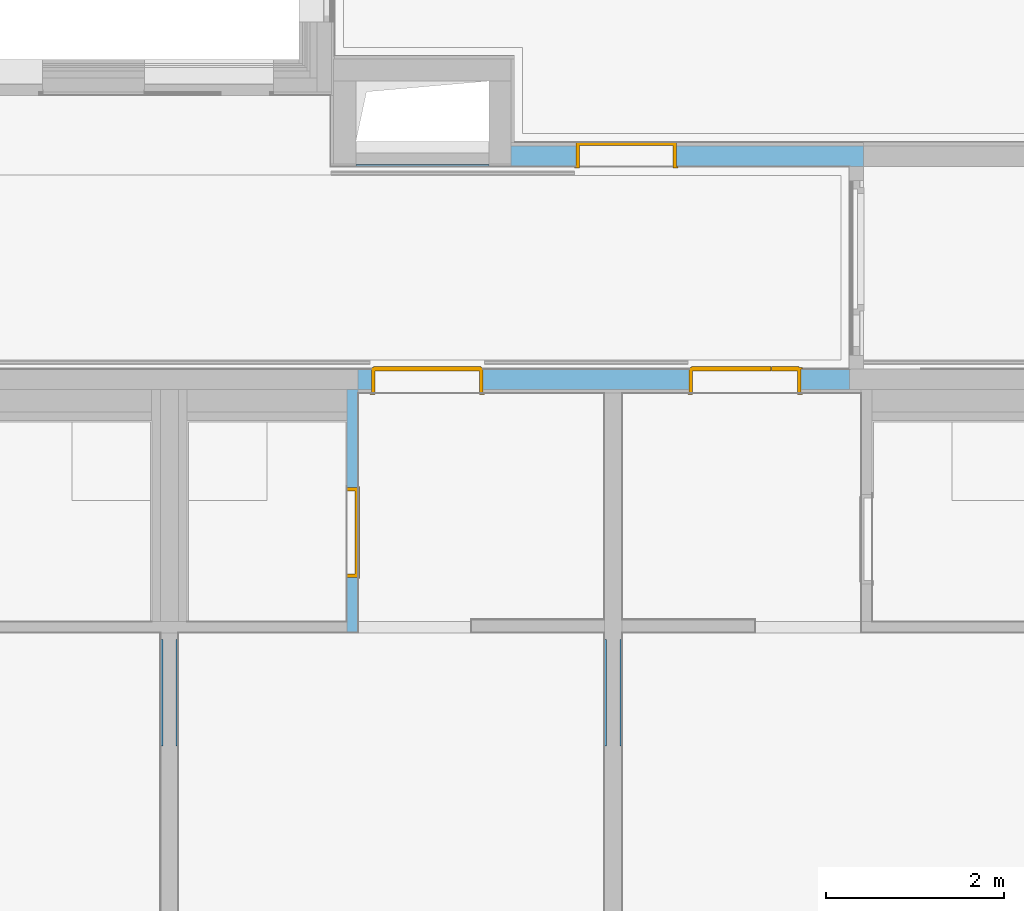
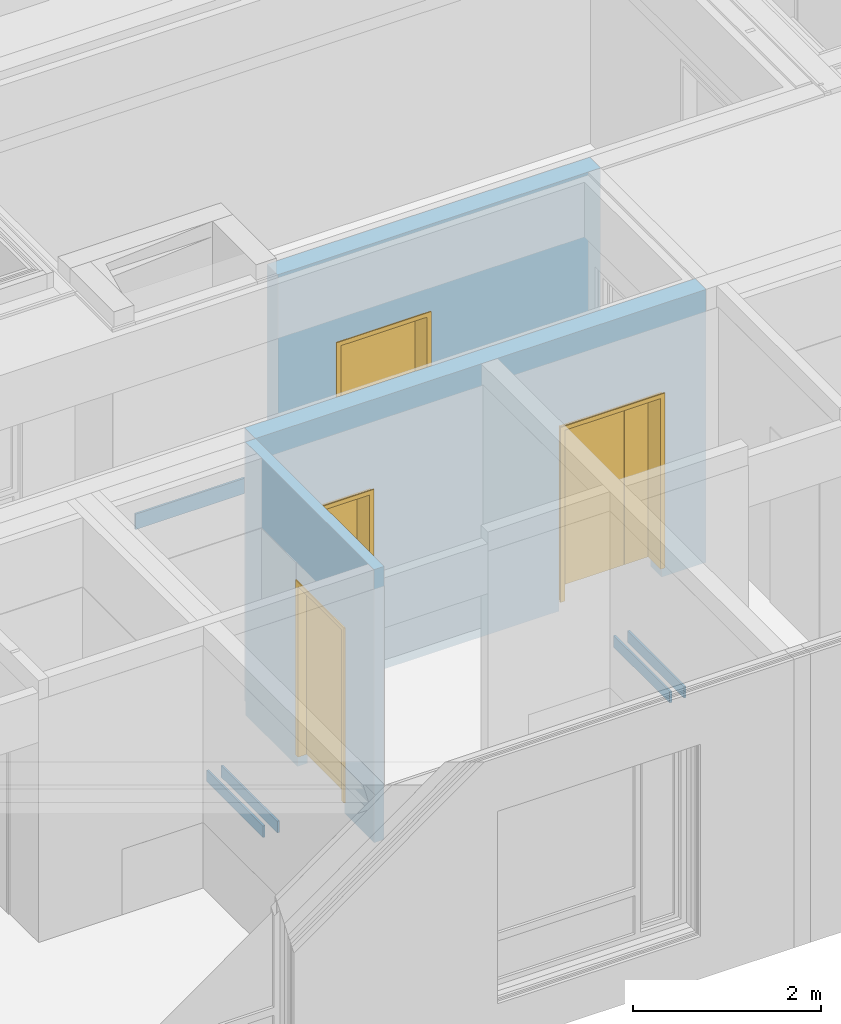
# One storey, part 66 of 222: 5 walls, 4 doors, 4 openings, plus 3 elements that do not belong to this part.
"""IFC4 building model written with IfcOpenShell, lengths in metres."""

from ifc_helpers import new_model, entity, si_unit, converted_unit, derived_unit, frame, frame_2d, origin, origin_with_axes, place, context, subcontext, project, spatial, polyline, rectangle, outline, extrude, faceted_brep, source, transform, mapped, material, type_object, element, fill, save


model = new_model("IFC4")

# Units and contexts
model_context = context("Model", 3, precision=1e-05, world=origin())
body_context = subcontext(model_context, "Body", "Model", "MODEL_VIEW")
ifc_project = project(units=[si_unit("LENGTHUNIT", "METRE"), si_unit("AREAUNIT", "SQUARE_METRE"), si_unit("VOLUMEUNIT", "CUBIC_METRE"), si_unit("MASSUNIT", "GRAM", prefix="KILO"), converted_unit("PLANEANGLEUNIT", "DEGREE", entity("IfcPlaneAngleMeasure", 0.0174532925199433), si_unit("PLANEANGLEUNIT", "RADIAN"), dimensions=[0, 0, 0, 0, 0, 0, 0]), derived_unit("THERMALTRANSMITTANCEUNIT", [(si_unit("POWERUNIT", "WATT"), 1), (si_unit("THERMODYNAMICTEMPERATUREUNIT", "KELVIN"), -1), (si_unit("LENGTHUNIT", "METRE"), -2)]), derived_unit("VOLUMETRICFLOWRATEUNIT", [(si_unit("LENGTHUNIT", "METRE"), 3), (converted_unit("TIMEUNIT", "hour", entity("IfcTimeMeasure", 3600.0), si_unit("TIMEUNIT", "SECOND"), dimensions=[0, 0, 1, 0, 0, 0, 0]), -1), (si_unit("LENGTHUNIT", "METRE"), -1)])], contexts=[model_context])

# Site, building, storey
site_placement = place(None, origin())
site = spatial("IfcSite", under=ifc_project, at=site_placement, Name="Psychiatrie Neubau Wunstorf", CompositionType="ELEMENT")
building_placement = place(site_placement, origin())
building = spatial("IfcBuilding", under=site, at=building_placement, Name="Neubau H2 Stationsgebäude", CompositionType="ELEMENT")
storey_placement = place(building_placement, frame((0.0, 0.0, 3.6)))
storey = spatial("IfcBuildingStorey", under=building, at=storey_placement, Name="H2 Ebene +1", CompositionType="ELEMENT", Elevation=3.6)

# Wall, opening, door
ifc_material_1 = material(Name="WI-LB")
wall_1_placement = place(storey_placement, frame((27.0, 4.09874963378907, 0.0), z_axis=(0.0, 0.0, 1.0), x_axis=(0.0, -1.0, 0.0)))
wall_1 = element("IfcWall", 1, at=wall_1_placement, inside=storey, material=ifc_material_1, context=body_context, shape_type="SweptSolid", body=[
    extrude(rectangle(XDim=2.73999999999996, YDim=0.125, at=frame_2d((1.36999999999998, 0.0625), x_axis=(1.0, 0.0))), origin_with_axes(), (0.0, 0.0, 1.0), 3.55),
])
opening_1_placement = place(wall_1_placement, frame((1.10499999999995, 0.0, 0.0), z_axis=(0.0, 1.0, 0.0), x_axis=(0.0, 0.0, 1.0)))
opening_1 = element("IfcOpeningElement", 2, at=opening_1_placement, cuts=wall_1, Name="Türöffnung", ObjectType="Opening", context=body_context, shape_type="SweptSolid", body=[
    extrude(outline(polyline([(2.41, 1.01), (2.41, 0.0), (0.0, 0.0), (0.0, 1.01), (2.41, 1.01)])), origin_with_axes(), (0.0, 0.0, 1.0), 0.125),
])
ifc_material_2 = material(Name="TI-1F-UZ-D-N")
door_type_1 = type_object("IfcDoorType", Name="SMT", OperationType="SINGLE_SWING_RIGHT", ParameterTakesPrecedence=False, PredefinedType="DOOR")
shared_shape_1 = source(origin_with_axes(), body_context, "Body", "Brep", [
    faceted_brep([(1.05, 0.0124999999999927, 0.0), (1.05, 0.112499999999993, 0.0), (1.01, 0.112499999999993, 0.0), (1.01, 0.0124999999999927, 0.0), (1.05, 0.112499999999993, 3.55), (1.05, 0.0124999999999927, 3.55), (1.01, 0.0124999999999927, 3.55), (1.01, 0.112499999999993, 3.55)], [[[0, 1, 2, 3]], [[4, 5, 6, 7]], [[1, 0, 5, 4]], [[2, 1, 4, 7]], [[3, 2, 7, 6]], [[0, 3, 6, 5]]], orient=[[False], [False], [False], [False], [False], [False]]),
    faceted_brep([(0.0, 0.0124999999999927, 0.0), (0.0, 0.112499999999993, 0.0), (-0.0399999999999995, 0.112499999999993, 0.0), (-0.0399999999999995, 0.0124999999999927, 0.0), (0.0, 0.112499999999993, 3.55), (0.0, 0.0124999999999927, 3.55), (-0.0399999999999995, 0.0124999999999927, 3.55), (-0.0399999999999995, 0.112499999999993, 3.55)], [[[0, 1, 2, 3]], [[4, 5, 6, 7]], [[1, 0, 5, 4]], [[2, 1, 4, 7]], [[3, 2, 7, 6]], [[0, 3, 6, 5]]], orient=[[False], [False], [False], [False], [False], [False]]),
    faceted_brep([(1.01, 0.0124999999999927, 2.41), (1.01, 0.112499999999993, 2.41), (0.0, 0.112499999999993, 2.41), (0.0, 0.0124999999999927, 2.41), (1.01, 0.112499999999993, 2.45), (1.01, 0.0124999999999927, 2.45), (0.0, 0.0124999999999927, 2.45), (0.0, 0.112499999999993, 2.45)], [[[0, 1, 2, 3]], [[4, 5, 6, 7]], [[1, 0, 5, 4]], [[2, 1, 4, 7]], [[3, 2, 7, 6]], [[0, 3, 6, 5]]], orient=[[False], [False], [False], [False], [False], [False]]),
])
shared_shape_2 = source(origin_with_axes(), body_context, "Body", "Brep", [
    faceted_brep([(0.0, -0.0150000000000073, 2.41), (0.0400000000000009, -0.0150000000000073, 2.41), (0.0400000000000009, -0.0150000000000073, 0.15), (0.0, -0.0150000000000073, 0.15), (0.0, 0.139999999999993, 0.15), (0.0400000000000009, 0.139999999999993, 0.15), (0.0400000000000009, 0.139999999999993, 2.41), (0.0, 0.139999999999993, 2.41)], [[[0, 1, 2, 3]], [[4, 5, 6, 7]], [[3, 4, 7, 0]], [[2, 5, 4, 3]], [[1, 6, 5, 2]], [[0, 7, 6, 1]]], orient=[[False], [False], [False], [False], [False], [False]]),
    faceted_brep([(0.0, -0.0150000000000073, 2.425), (0.0, -0.0150000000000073, 0.15), (-0.0149999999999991, -0.0150000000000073, 0.15), (-0.0149999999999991, -0.0150000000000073, 2.425), (0.0, 0.0, 0.15), (0.0, 0.0, 2.425), (-0.0149999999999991, 0.0, 2.425), (-0.0149999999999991, 0.0, 0.15)], [[[0, 1, 2, 3]], [[4, 5, 6, 7]], [[1, 0, 5, 4]], [[2, 1, 4, 7]], [[3, 2, 7, 6]], [[0, 3, 6, 5]]], orient=[[False], [False], [False], [False], [False], [False]]),
    faceted_brep([(0.0, 0.124999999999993, 2.425), (0.0, 0.124999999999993, 0.15), (-0.0149999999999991, 0.124999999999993, 0.15), (-0.0149999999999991, 0.124999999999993, 2.425), (0.0, 0.139999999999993, 0.15), (0.0, 0.139999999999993, 2.425), (-0.0149999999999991, 0.139999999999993, 2.425), (-0.0149999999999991, 0.139999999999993, 0.15)], [[[0, 1, 2, 3]], [[4, 5, 6, 7]], [[1, 0, 5, 4]], [[2, 1, 4, 7]], [[3, 2, 7, 6]], [[0, 3, 6, 5]]], orient=[[False], [False], [False], [False], [False], [False]]),
    faceted_brep([(0.970000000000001, -0.0150000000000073, 2.41), (1.01, -0.0150000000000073, 2.41), (1.01, -0.0150000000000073, 0.15), (0.970000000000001, -0.0150000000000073, 0.15), (0.970000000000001, 0.139999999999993, 0.15), (1.01, 0.139999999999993, 0.15), (1.01, 0.139999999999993, 2.41), (0.970000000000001, 0.139999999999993, 2.41)], [[[0, 1, 2, 3]], [[4, 5, 6, 7]], [[3, 4, 7, 0]], [[2, 5, 4, 3]], [[1, 6, 5, 2]], [[0, 7, 6, 1]]], orient=[[False], [False], [False], [False], [False], [False]]),
    faceted_brep([(1.01, -0.0150000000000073, 2.425), (1.025, -0.0150000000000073, 2.425), (1.025, -0.0150000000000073, 0.15), (1.01, -0.0150000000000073, 0.15), (1.01, 0.0, 0.15), (1.025, 0.0, 0.15), (1.025, 0.0, 2.425), (1.01, 0.0, 2.425)], [[[0, 1, 2, 3]], [[4, 5, 6, 7]], [[3, 4, 7, 0]], [[2, 5, 4, 3]], [[1, 6, 5, 2]], [[0, 7, 6, 1]]], orient=[[False], [False], [False], [False], [False], [False]]),
    faceted_brep([(1.01, 0.124999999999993, 2.425), (1.025, 0.124999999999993, 2.425), (1.025, 0.124999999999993, 0.15), (1.01, 0.124999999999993, 0.15), (1.01, 0.139999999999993, 0.15), (1.025, 0.139999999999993, 0.15), (1.025, 0.139999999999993, 2.425), (1.01, 0.139999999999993, 2.425)], [[[0, 1, 2, 3]], [[4, 5, 6, 7]], [[3, 4, 7, 0]], [[2, 5, 4, 3]], [[1, 6, 5, 2]], [[0, 7, 6, 1]]], orient=[[False], [False], [False], [False], [False], [False]]),
    faceted_brep([(0.0400000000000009, -0.0150000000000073, 2.41), (0.970000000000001, -0.0150000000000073, 2.41), (0.970000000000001, -0.0150000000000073, 2.37), (0.0400000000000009, -0.0150000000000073, 2.37), (0.0400000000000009, 0.139999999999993, 2.37), (0.970000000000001, 0.139999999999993, 2.37), (0.970000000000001, 0.139999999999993, 2.41), (0.0400000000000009, 0.139999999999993, 2.41)], [[[0, 1, 2, 3]], [[4, 5, 6, 7]], [[3, 4, 7, 0]], [[2, 5, 4, 3]], [[1, 6, 5, 2]], [[0, 7, 6, 1]]], orient=[[False], [False], [False], [False], [False], [False]]),
    faceted_brep([(0.0, -0.0150000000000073, 2.425), (1.01, -0.0150000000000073, 2.425), (1.01, -0.0150000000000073, 2.41), (0.0, -0.0150000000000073, 2.41), (0.0, 0.0, 2.41), (1.01, 0.0, 2.41), (1.01, 0.0, 2.425), (0.0, 0.0, 2.425)], [[[0, 1, 2, 3]], [[4, 5, 6, 7]], [[3, 4, 7, 0]], [[2, 5, 4, 3]], [[1, 6, 5, 2]], [[0, 7, 6, 1]]], orient=[[False], [False], [False], [False], [False], [False]]),
    faceted_brep([(0.0, 0.124999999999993, 2.425), (1.01, 0.124999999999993, 2.425), (1.01, 0.124999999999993, 2.41), (0.0, 0.124999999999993, 2.41), (0.0, 0.139999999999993, 2.41), (1.01, 0.139999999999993, 2.41), (1.01, 0.139999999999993, 2.425), (0.0, 0.139999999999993, 2.425)], [[[0, 1, 2, 3]], [[4, 5, 6, 7]], [[3, 4, 7, 0]], [[2, 5, 4, 3]], [[1, 6, 5, 2]], [[0, 7, 6, 1]]], orient=[[False], [False], [False], [False], [False], [False]]),
    faceted_brep([(0.0250000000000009, 0.0909999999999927, 2.385), (0.985, 0.0909999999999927, 2.385), (0.985, 0.0909999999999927, 0.15), (0.0250000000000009, 0.0909999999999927, 0.15), (0.0250000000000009, 0.140999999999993, 0.15), (0.985, 0.140999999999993, 0.15), (0.985, 0.140999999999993, 2.385), (0.0250000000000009, 0.140999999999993, 2.385)], [[[0, 1, 2, 3]], [[4, 5, 6, 7]], [[3, 4, 7, 0]], [[2, 5, 4, 3]], [[1, 6, 5, 2]], [[0, 7, 6, 1]]], orient=[[False], [False], [False], [False], [False], [False]]),
])
door_1_placement = place(opening_1_placement, frame((0.0, 0.0, 0.0), z_axis=(1.0, 0.0, 0.0), x_axis=(0.0, 1.0, 0.0)))
door_1 = element("IfcDoor", 3, at=door_1_placement, inside=storey, type_object=door_type_1, material=ifc_material_2, Name="SMT", OverallHeight=2.41, OverallWidth=1.01, context=body_context, shape_type="MappedRepresentation", body=[
    mapped(shared_shape_1, transform((0.0, 0.0, 0.0), x_axis=(1.0, 0.0, 0.0), y_axis=(0.0, 1.0, 0.0), z_axis=(0.0, 0.0, 1.0), scale=1.0)),
    mapped(shared_shape_2, transform((0.0, 0.0, 0.0), x_axis=(1.0, 0.0, 0.0), y_axis=(0.0, 1.0, 0.0), z_axis=(0.0, 0.0, 1.0), scale=1.0)),
])
fill(opening_1, door_1)

ifc_material_3 = material(Name="WI-HW 60")
wall_2_placement = place(storey_placement, frame((28.85, 6.61199999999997, 0.0), z_axis=(0.0, 0.0, 1.0), x_axis=(1.0, -2.2917845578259e-16, 0.0)))
wall_2 = element("IfcWall", 4, at=wall_2_placement, inside=storey, material=ifc_material_3, context=body_context, shape_type="SweptSolid", body=[
    extrude(rectangle(XDim=3.96849999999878, YDim=0.232, at=frame_2d((1.98424999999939, 0.116), x_axis=(1.0, 0.0))), origin_with_axes(), (0.0, 0.0, 1.0), 3.55),
])
opening_2_placement = place(wall_2_placement, frame((1.865, 0.232, 0.0), z_axis=(0.0, -1.0, 0.0), x_axis=(0.0, 0.0, 1.0)))
opening_2 = element("IfcOpeningElement", 5, at=opening_2_placement, cuts=wall_2, Name="Türöffnung", ObjectType="Opening", context=body_context, shape_type="SweptSolid", body=[
    extrude(outline(polyline([(2.41, 1.135), (2.41, 0.0), (0.0, 0.0), (0.0, 1.135), (2.41, 1.135)])), origin_with_axes(), (0.0, 0.0, 1.0), 0.232),
])
ifc_material_4 = material(Name="TI-1F-UZ-D")
door_type_2 = type_object("IfcDoorType", Name="SMT", OperationType="SINGLE_SWING_RIGHT", ParameterTakesPrecedence=False, PredefinedType="DOOR")
shared_shape_3 = source(origin_with_axes(), body_context, "Body", "Brep", [
    faceted_brep([(0.0, -0.015, 2.41), (0.04, -0.015, 2.41), (0.04, -0.015, 0.15), (0.0, -0.015, 0.15), (0.0, 0.287, 0.15), (0.04, 0.287, 0.15), (0.04, 0.287, 2.41), (0.0, 0.287, 2.41)], [[[0, 1, 2, 3]], [[4, 5, 6, 7]], [[3, 4, 7, 0]], [[2, 5, 4, 3]], [[1, 6, 5, 2]], [[0, 7, 6, 1]]], orient=[[False], [False], [False], [False], [False], [False]]),
    faceted_brep([(0.0, -0.015, 2.425), (0.0, -0.015, 0.15), (-0.015, -0.015, 0.15), (-0.015, -0.015, 2.425), (0.0, 0.0, 0.15), (0.0, 0.0, 2.425), (-0.015, 0.0, 2.425), (-0.015, 0.0, 0.15)], [[[0, 1, 2, 3]], [[4, 5, 6, 7]], [[1, 0, 5, 4]], [[2, 1, 4, 7]], [[3, 2, 7, 6]], [[0, 3, 6, 5]]], orient=[[False], [False], [False], [False], [False], [False]]),
    faceted_brep([(0.0, 0.272, 2.425), (0.0, 0.272, 0.15), (-0.015, 0.272, 0.15), (-0.015, 0.272, 2.425), (0.0, 0.287, 0.15), (0.0, 0.287, 2.425), (-0.015, 0.287, 2.425), (-0.015, 0.287, 0.15)], [[[0, 1, 2, 3]], [[4, 5, 6, 7]], [[1, 0, 5, 4]], [[2, 1, 4, 7]], [[3, 2, 7, 6]], [[0, 3, 6, 5]]], orient=[[False], [False], [False], [False], [False], [False]]),
    faceted_brep([(1.095, -0.015, 2.41), (1.135, -0.015, 2.41), (1.135, -0.015, 0.15), (1.095, -0.015, 0.15), (1.095, 0.287, 0.15), (1.135, 0.287, 0.15), (1.135, 0.287, 2.41), (1.095, 0.287, 2.41)], [[[0, 1, 2, 3]], [[4, 5, 6, 7]], [[3, 4, 7, 0]], [[2, 5, 4, 3]], [[1, 6, 5, 2]], [[0, 7, 6, 1]]], orient=[[False], [False], [False], [False], [False], [False]]),
    faceted_brep([(1.135, -0.015, 2.425), (1.15, -0.015, 2.425), (1.15, -0.015, 0.15), (1.135, -0.015, 0.15), (1.135, 0.0, 0.15), (1.15, 0.0, 0.15), (1.15, 0.0, 2.425), (1.135, 0.0, 2.425)], [[[0, 1, 2, 3]], [[4, 5, 6, 7]], [[3, 4, 7, 0]], [[2, 5, 4, 3]], [[1, 6, 5, 2]], [[0, 7, 6, 1]]], orient=[[False], [False], [False], [False], [False], [False]]),
    faceted_brep([(1.135, 0.272, 2.425), (1.15, 0.272, 2.425), (1.15, 0.272, 0.15), (1.135, 0.272, 0.15), (1.135, 0.287, 0.15), (1.15, 0.287, 0.15), (1.15, 0.287, 2.425), (1.135, 0.287, 2.425)], [[[0, 1, 2, 3]], [[4, 5, 6, 7]], [[3, 4, 7, 0]], [[2, 5, 4, 3]], [[1, 6, 5, 2]], [[0, 7, 6, 1]]], orient=[[False], [False], [False], [False], [False], [False]]),
    faceted_brep([(0.04, -0.015, 2.41), (1.095, -0.015, 2.41), (1.095, -0.015, 2.37), (0.04, -0.015, 2.37), (0.04, 0.287, 2.37), (1.095, 0.287, 2.37), (1.095, 0.287, 2.41), (0.04, 0.287, 2.41)], [[[0, 1, 2, 3]], [[4, 5, 6, 7]], [[3, 4, 7, 0]], [[2, 5, 4, 3]], [[1, 6, 5, 2]], [[0, 7, 6, 1]]], orient=[[False], [False], [False], [False], [False], [False]]),
    faceted_brep([(0.0, -0.015, 2.425), (1.135, -0.015, 2.425), (1.135, -0.015, 2.41), (0.0, -0.015, 2.41), (0.0, 0.0, 2.41), (1.135, 0.0, 2.41), (1.135, 0.0, 2.425), (0.0, 0.0, 2.425)], [[[0, 1, 2, 3]], [[4, 5, 6, 7]], [[3, 4, 7, 0]], [[2, 5, 4, 3]], [[1, 6, 5, 2]], [[0, 7, 6, 1]]], orient=[[False], [False], [False], [False], [False], [False]]),
    faceted_brep([(0.0, 0.272, 2.425), (1.135, 0.272, 2.425), (1.135, 0.272, 2.41), (0.0, 0.272, 2.41), (0.0, 0.287, 2.41), (1.135, 0.287, 2.41), (1.135, 0.287, 2.425), (0.0, 0.287, 2.425)], [[[0, 1, 2, 3]], [[4, 5, 6, 7]], [[3, 4, 7, 0]], [[2, 5, 4, 3]], [[1, 6, 5, 2]], [[0, 7, 6, 1]]], orient=[[False], [False], [False], [False], [False], [False]]),
    faceted_brep([(0.025, 0.238, 2.385), (1.11, 0.238, 2.385), (1.11, 0.238, 0.15), (0.025, 0.238, 0.15), (0.025, 0.288, 0.15), (1.11, 0.288, 0.15), (1.11, 0.288, 2.385), (0.025, 0.288, 2.385)], [[[0, 1, 2, 3]], [[4, 5, 6, 7]], [[3, 4, 7, 0]], [[2, 5, 4, 3]], [[1, 6, 5, 2]], [[0, 7, 6, 1]]], orient=[[False], [False], [False], [False], [False], [False]]),
])
door_2_placement = place(opening_2_placement, frame((0.0, 1.135, 0.232000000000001), z_axis=(1.0, 0.0, 0.0), x_axis=(0.0, -1.0, -2.2917845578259e-16)))
door_2 = element("IfcDoor", 6, at=door_2_placement, inside=storey, type_object=door_type_2, material=ifc_material_4, Name="SMT", OverallHeight=2.41, OverallWidth=1.135, context=body_context, shape_type="MappedRepresentation", body=[
    mapped(shared_shape_3, transform((0.0, 0.0, 0.0), x_axis=(1.0, 0.0, 0.0), y_axis=(0.0, 1.0, 0.0), z_axis=(0.0, 0.0, 1.0), scale=1.0)),
])
fill(opening_2, door_2)

# Wall, openings, doors
ifc_material_5 = material(Name="WI-HW 60")
wall_3_placement = place(storey_placement, frame((32.6634999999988, 4.33074963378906, 0.0), z_axis=(0.0, 0.0, 1.0), x_axis=(-1.0, 1.14949226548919e-15, 0.0)))
wall_3 = element("IfcWall", 7, at=wall_3_placement, inside=storey, material=ifc_material_5, context=body_context, shape_type="SweptSolid", body=[
    extrude(rectangle(XDim=5.53849999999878, YDim=0.232, at=frame_2d((2.76924999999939, 0.116), x_axis=(1.0, 0.0))), origin_with_axes(), (0.0, 0.0, 1.0), 3.55),
])
opening_3_placement = place(wall_3_placement, frame((4.12849999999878, 0.0, 0.0), z_axis=(0.0, 1.0, 0.0), x_axis=(0.0, 0.0, 1.0)))
opening_3 = element("IfcOpeningElement", 8, at=opening_3_placement, cuts=wall_3, Name="Türöffnung", ObjectType="Opening", context=body_context, shape_type="SweptSolid", body=[
    extrude(outline(polyline([(2.41, 1.26), (2.41, 0.0), (0.0, 0.0), (0.0, 1.26), (2.41, 1.26)])), origin_with_axes(), (0.0, 0.0, 1.0), 0.232),
])
opening_4_placement = place(wall_3_placement, frame((0.548499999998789, 0.0, 0.0), z_axis=(-9.80058945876e-16, 1.0, 0.0), x_axis=(0.0, 0.0, 1.0)))
opening_4 = element("IfcOpeningElement", 9, at=opening_4_placement, cuts=wall_3, Name="Türöffnung", ObjectType="Opening", context=body_context, shape_type="SweptSolid", body=[
    extrude(outline(polyline([(2.41, 1.26), (2.41, 0.0), (0.0, 0.0), (0.0, 1.26), (2.41, 1.26)])), origin_with_axes(), (0.0, 0.0, 1.0), 0.232),
])
ifc_material_6 = material(Name="TI-2F-UZ-D")
door_type_3 = type_object("IfcDoorType", Name="SMT", OperationType="DOUBLE_DOOR_SINGLE_SWING", ParameterTakesPrecedence=False, PredefinedType="DOOR")
shared_shape_4 = source(origin_with_axes(), body_context, "Body", "Brep", [
    faceted_brep([(1.26, -0.0150000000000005, 2.41), (1.26, -0.0150000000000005, 0.15), (1.22, -0.0150000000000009, 0.15), (1.22, -0.0150000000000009, 2.41), (1.26, 0.287000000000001, 0.15), (1.26, 0.287000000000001, 2.41), (1.22, 0.287000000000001, 2.41), (1.22, 0.287000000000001, 0.15)], [[[0, 1, 2, 3]], [[4, 5, 6, 7]], [[1, 0, 5, 4]], [[2, 1, 4, 7]], [[3, 2, 7, 6]], [[0, 3, 6, 5]]], orient=[[False], [False], [False], [False], [False], [False]]),
    faceted_brep([(1.26, -0.0150000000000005, 2.425), (1.275, -0.0150000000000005, 2.425), (1.275, -0.0150000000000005, 0.15), (1.26, -0.0150000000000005, 0.15), (1.26, 0.0, 0.15), (1.275, 0.0, 0.15), (1.275, 0.0, 2.425), (1.26, 0.0, 2.425)], [[[0, 1, 2, 3]], [[4, 5, 6, 7]], [[3, 4, 7, 0]], [[2, 5, 4, 3]], [[1, 6, 5, 2]], [[0, 7, 6, 1]]], orient=[[False], [False], [False], [False], [False], [False]]),
    faceted_brep([(1.26, 0.272000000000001, 2.425), (1.275, 0.272000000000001, 2.425), (1.275, 0.272000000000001, 0.15), (1.26, 0.272000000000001, 0.15), (1.26, 0.287000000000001, 0.15), (1.275, 0.287000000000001, 0.15), (1.275, 0.287000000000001, 2.425), (1.26, 0.287000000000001, 2.425)], [[[0, 1, 2, 3]], [[4, 5, 6, 7]], [[3, 4, 7, 0]], [[2, 5, 4, 3]], [[1, 6, 5, 2]], [[0, 7, 6, 1]]], orient=[[False], [False], [False], [False], [False], [False]]),
    faceted_brep([(0.04, -0.0150000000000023, 2.41), (0.04, -0.0150000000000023, 0.15), (0.0, -0.0150000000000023, 0.15), (0.0, -0.0150000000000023, 2.41), (0.04, 0.286999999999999, 0.15), (0.04, 0.286999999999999, 2.41), (0.0, 0.286999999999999, 2.41), (0.0, 0.286999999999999, 0.15)], [[[0, 1, 2, 3]], [[4, 5, 6, 7]], [[1, 0, 5, 4]], [[2, 1, 4, 7]], [[3, 2, 7, 6]], [[0, 3, 6, 5]]], orient=[[False], [False], [False], [False], [False], [False]]),
    faceted_brep([(0.0, -0.0150000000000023, 2.425), (0.0, -0.0150000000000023, 0.15), (-0.015, -0.0150000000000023, 0.15), (-0.015, -0.0150000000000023, 2.425), (0.0, 0.0, 0.15), (0.0, 0.0, 2.425), (-0.015, 0.0, 2.425), (-0.015, 0.0, 0.15)], [[[0, 1, 2, 3]], [[4, 5, 6, 7]], [[1, 0, 5, 4]], [[2, 1, 4, 7]], [[3, 2, 7, 6]], [[0, 3, 6, 5]]], orient=[[False], [False], [False], [False], [False], [False]]),
    faceted_brep([(0.0, 0.271999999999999, 2.425), (0.0, 0.271999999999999, 0.15), (-0.015, 0.271999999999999, 0.15), (-0.015, 0.271999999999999, 2.425), (0.0, 0.286999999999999, 0.15), (0.0, 0.286999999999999, 2.425), (-0.015, 0.286999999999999, 2.425), (-0.015, 0.286999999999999, 0.15)], [[[0, 1, 2, 3]], [[4, 5, 6, 7]], [[1, 0, 5, 4]], [[2, 1, 4, 7]], [[3, 2, 7, 6]], [[0, 3, 6, 5]]], orient=[[False], [False], [False], [False], [False], [False]]),
    faceted_brep([(1.22, -0.0150000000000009, 2.41), (1.22, -0.0150000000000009, 2.37), (0.04, -0.0150000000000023, 2.37), (0.04, -0.0150000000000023, 2.41), (1.22, 0.287000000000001, 2.37), (1.22, 0.287000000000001, 2.41), (0.04, 0.286999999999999, 2.41), (0.04, 0.286999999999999, 2.37)], [[[0, 1, 2, 3]], [[4, 5, 6, 7]], [[1, 0, 5, 4]], [[2, 1, 4, 7]], [[3, 2, 7, 6]], [[0, 3, 6, 5]]], orient=[[False], [False], [False], [False], [False], [False]]),
    faceted_brep([(1.26, -0.0150000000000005, 2.425), (1.26, -0.0150000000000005, 2.41), (0.0, -0.0150000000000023, 2.41), (0.0, -0.0150000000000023, 2.425), (1.26, 0.0, 2.41), (1.26, 0.0, 2.425), (0.0, 0.0, 2.425), (0.0, 0.0, 2.41)], [[[0, 1, 2, 3]], [[4, 5, 6, 7]], [[1, 0, 5, 4]], [[2, 1, 4, 7]], [[3, 2, 7, 6]], [[0, 3, 6, 5]]], orient=[[False], [False], [False], [False], [False], [False]]),
    faceted_brep([(1.26, 0.272000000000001, 2.425), (1.26, 0.272000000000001, 2.41), (0.0, 0.271999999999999, 2.41), (0.0, 0.271999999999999, 2.425), (1.26, 0.287000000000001, 2.41), (1.26, 0.287000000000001, 2.425), (0.0, 0.286999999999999, 2.425), (0.0, 0.286999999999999, 2.41)], [[[0, 1, 2, 3]], [[4, 5, 6, 7]], [[1, 0, 5, 4]], [[2, 1, 4, 7]], [[3, 2, 7, 6]], [[0, 3, 6, 5]]], orient=[[False], [False], [False], [False], [False], [False]]),
    faceted_brep([(1.235, 0.252000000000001, 2.385), (1.235, 0.252000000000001, 0.15), (0.335, 0.252, 0.15), (0.335, 0.252, 2.385), (1.235, 0.302000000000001, 0.15), (1.235, 0.302000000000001, 2.385), (0.335, 0.302, 2.385), (0.335, 0.302, 0.15)], [[[0, 1, 2, 3]], [[4, 5, 6, 7]], [[1, 0, 5, 4]], [[2, 1, 4, 7]], [[3, 2, 7, 6]], [[0, 3, 6, 5]]], orient=[[False], [False], [False], [False], [False], [False]]),
    faceted_brep([(0.334, 0.252, 2.385), (0.334, 0.252, 0.15), (0.025, 0.251999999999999, 0.15), (0.025, 0.251999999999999, 2.385), (0.334, 0.302, 0.15), (0.334, 0.302, 2.385), (0.025, 0.301999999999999, 2.385), (0.025, 0.301999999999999, 0.15)], [[[0, 1, 2, 3]], [[4, 5, 6, 7]], [[1, 0, 5, 4]], [[2, 1, 4, 7]], [[3, 2, 7, 6]], [[0, 3, 6, 5]]], orient=[[False], [False], [False], [False], [False], [False]]),
])
door_3_placement = place(opening_3_placement, frame((0.0, 1.26, 0.271999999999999), z_axis=(1.0, 0.0, 0.0), x_axis=(0.0, -1.0, 2.94150118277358e-16)))
door_3 = element("IfcDoor", 10, at=door_3_placement, inside=storey, type_object=door_type_3, material=ifc_material_6, Name="SMT", OverallHeight=2.41, OverallWidth=1.26, context=body_context, shape_type="MappedRepresentation", body=[
    mapped(shared_shape_4, transform((0.0, 0.0, 0.0), x_axis=(1.0, 0.0, 0.0), y_axis=(0.0, 1.0, 0.0), z_axis=(0.0, 0.0, 1.0), scale=1.0)),
])
fill(opening_3, door_3)
ifc_material_7 = material(Name="TI-2F-UZ-D")
door_type_4 = type_object("IfcDoorType", Name="SMT", OperationType="DOUBLE_DOOR_SINGLE_SWING", ParameterTakesPrecedence=False, PredefinedType="DOOR")
shared_shape_5 = source(origin_with_axes(), body_context, "Body", "Brep", [
    faceted_brep([(0.0, -0.0150000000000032, 2.41), (0.04, -0.0150000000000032, 2.41), (0.04, -0.0150000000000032, 0.15), (0.0, -0.0150000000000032, 0.15), (0.0, 0.286999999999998, 0.15), (0.04, 0.286999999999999, 0.15), (0.04, 0.286999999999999, 2.41), (0.0, 0.286999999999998, 2.41)], [[[0, 1, 2, 3]], [[4, 5, 6, 7]], [[3, 4, 7, 0]], [[2, 5, 4, 3]], [[1, 6, 5, 2]], [[0, 7, 6, 1]]], orient=[[False], [False], [False], [False], [False], [False]]),
    faceted_brep([(0.0, -0.0150000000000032, 2.425), (0.0, -0.0150000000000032, 0.15), (-0.015, -0.0150000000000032, 0.15), (-0.015, -0.0150000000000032, 2.425), (0.0, 0.0, 0.15), (0.0, 0.0, 2.425), (-0.015, 0.0, 2.425), (-0.015, 0.0, 0.15)], [[[0, 1, 2, 3]], [[4, 5, 6, 7]], [[1, 0, 5, 4]], [[2, 1, 4, 7]], [[3, 2, 7, 6]], [[0, 3, 6, 5]]], orient=[[False], [False], [False], [False], [False], [False]]),
    faceted_brep([(0.0, 0.271999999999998, 2.425), (0.0, 0.271999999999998, 0.15), (-0.015, 0.271999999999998, 0.15), (-0.015, 0.271999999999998, 2.425), (0.0, 0.286999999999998, 0.15), (0.0, 0.286999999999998, 2.425), (-0.015, 0.286999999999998, 2.425), (-0.015, 0.286999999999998, 0.15)], [[[0, 1, 2, 3]], [[4, 5, 6, 7]], [[1, 0, 5, 4]], [[2, 1, 4, 7]], [[3, 2, 7, 6]], [[0, 3, 6, 5]]], orient=[[False], [False], [False], [False], [False], [False]]),
    faceted_brep([(1.22, -0.0150000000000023, 2.41), (1.26, -0.0150000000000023, 2.41), (1.26, -0.0150000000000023, 0.15), (1.22, -0.0150000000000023, 0.15), (1.22, 0.286999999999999, 0.15), (1.26, 0.286999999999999, 0.15), (1.26, 0.286999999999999, 2.41), (1.22, 0.286999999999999, 2.41)], [[[0, 1, 2, 3]], [[4, 5, 6, 7]], [[3, 4, 7, 0]], [[2, 5, 4, 3]], [[1, 6, 5, 2]], [[0, 7, 6, 1]]], orient=[[False], [False], [False], [False], [False], [False]]),
    faceted_brep([(1.26, -0.0150000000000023, 2.425), (1.275, -0.0150000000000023, 2.425), (1.275, -0.0150000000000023, 0.15), (1.26, -0.0150000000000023, 0.15), (1.26, 0.0, 0.15), (1.275, 0.0, 0.15), (1.275, 0.0, 2.425), (1.26, 0.0, 2.425)], [[[0, 1, 2, 3]], [[4, 5, 6, 7]], [[3, 4, 7, 0]], [[2, 5, 4, 3]], [[1, 6, 5, 2]], [[0, 7, 6, 1]]], orient=[[False], [False], [False], [False], [False], [False]]),
    faceted_brep([(1.26, 0.271999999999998, 2.425), (1.275, 0.271999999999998, 2.425), (1.275, 0.271999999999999, 0.15), (1.26, 0.271999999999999, 0.15), (1.26, 0.286999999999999, 0.15), (1.275, 0.286999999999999, 0.15), (1.275, 0.286999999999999, 2.425), (1.26, 0.286999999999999, 2.425)], [[[0, 1, 2, 3]], [[4, 5, 6, 7]], [[3, 4, 7, 0]], [[2, 5, 4, 3]], [[1, 6, 5, 2]], [[0, 7, 6, 1]]], orient=[[False], [False], [False], [False], [False], [False]]),
    faceted_brep([(0.04, -0.0150000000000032, 2.41), (1.22, -0.0150000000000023, 2.41), (1.22, -0.0150000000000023, 2.37), (0.04, -0.0150000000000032, 2.37), (0.04, 0.286999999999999, 2.37), (1.22, 0.286999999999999, 2.37), (1.22, 0.286999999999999, 2.41), (0.04, 0.286999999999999, 2.41)], [[[0, 1, 2, 3]], [[4, 5, 6, 7]], [[3, 4, 7, 0]], [[2, 5, 4, 3]], [[1, 6, 5, 2]], [[0, 7, 6, 1]]], orient=[[False], [False], [False], [False], [False], [False]]),
    faceted_brep([(0.0, -0.0150000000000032, 2.425), (1.26, -0.0150000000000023, 2.425), (1.26, -0.0150000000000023, 2.41), (0.0, -0.0150000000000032, 2.41), (0.0, 0.0, 2.41), (1.26, 0.0, 2.41), (1.26, 0.0, 2.425), (0.0, 0.0, 2.425)], [[[0, 1, 2, 3]], [[4, 5, 6, 7]], [[3, 4, 7, 0]], [[2, 5, 4, 3]], [[1, 6, 5, 2]], [[0, 7, 6, 1]]], orient=[[False], [False], [False], [False], [False], [False]]),
    faceted_brep([(0.0, 0.271999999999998, 2.425), (1.26, 0.271999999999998, 2.425), (1.26, 0.271999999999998, 2.41), (0.0, 0.271999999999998, 2.41), (0.0, 0.286999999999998, 2.41), (1.26, 0.286999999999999, 2.41), (1.26, 0.286999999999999, 2.425), (0.0, 0.286999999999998, 2.425)], [[[0, 1, 2, 3]], [[4, 5, 6, 7]], [[3, 4, 7, 0]], [[2, 5, 4, 3]], [[1, 6, 5, 2]], [[0, 7, 6, 1]]], orient=[[False], [False], [False], [False], [False], [False]]),
    faceted_brep([(0.025, 0.251999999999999, 2.385), (0.925, 0.251999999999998, 2.385), (0.925, 0.251999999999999, 0.15), (0.025, 0.251999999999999, 0.15), (0.025, 0.301999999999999, 0.15), (0.925, 0.301999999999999, 0.15), (0.925, 0.301999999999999, 2.385), (0.025, 0.301999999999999, 2.385)], [[[0, 1, 2, 3]], [[4, 5, 6, 7]], [[3, 4, 7, 0]], [[2, 5, 4, 3]], [[1, 6, 5, 2]], [[0, 7, 6, 1]]], orient=[[False], [False], [False], [False], [False], [False]]),
    faceted_brep([(0.926, 0.251999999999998, 2.385), (1.235, 0.251999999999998, 2.385), (1.235, 0.251999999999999, 0.15), (0.926, 0.251999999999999, 0.15), (0.926, 0.301999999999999, 0.15), (1.235, 0.301999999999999, 0.15), (1.235, 0.301999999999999, 2.385), (0.926, 0.301999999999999, 2.385)], [[[0, 1, 2, 3]], [[4, 5, 6, 7]], [[3, 4, 7, 0]], [[2, 5, 4, 3]], [[1, 6, 5, 2]], [[0, 7, 6, 1]]], orient=[[False], [False], [False], [False], [False], [False]]),
])
door_4_placement = place(opening_4_placement, frame((0.0, 1.26, 0.271999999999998), z_axis=(1.0, 0.0, 0.0), x_axis=(0.0, -1.0, 5.52387872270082e-16)))
door_4 = element("IfcDoor", 11, at=door_4_placement, inside=storey, type_object=door_type_4, material=ifc_material_7, Name="SMT", OverallHeight=2.41, OverallWidth=1.26, context=body_context, shape_type="MappedRepresentation", body=[
    mapped(shared_shape_5, transform((0.0, 0.0, 0.0), x_axis=(1.0, 0.0, 0.0), y_axis=(0.0, 1.0, 0.0), z_axis=(0.0, 0.0, 1.0), scale=1.0)),
])
fill(opening_4, door_4)

# Walls
for number, where, name in (
    (12, (25.075, 0.0854496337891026, 1.575), "WV 1.1"),
    (13, (24.9, 0.0854496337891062, 1.575), "WV 1.1"),
    (14, (29.9, 0.0854496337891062, 1.575), "WV 1.1"),
    (15, (30.075, 0.0854496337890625, 1.575), "WV 1.1"),
):
    element("IfcWall", number, at=place(storey_placement, frame(where)), inside=storey, Name=name, context=body_context, shape_type="Brep", body=[
        faceted_brep([(0.025, 1.2, 0.0), (0.0, 1.2, 0.0), (0.0, 0.0, 0.0), (0.025, 0.0, 0.0), (0.0, 1.2, 0.15), (0.025, 1.2, 0.15), (0.025, 0.0, 0.15), (0.0, 0.0, 0.15)], [[[0, 1, 2, 3]], [[4, 5, 6, 7]], [[1, 0, 5, 4]], [[2, 1, 4, 7]], [[3, 2, 7, 6]], [[0, 3, 6, 5]]], orient=[[False], [False], [False], [False], [False], [False]]),
    ])
wall_4_placement = place(storey_placement, frame((27.1, 6.61199999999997, 0.85)))
element("IfcWall", 16, at=wall_4_placement, inside=storey, Name="WV 1.1", context=body_context, shape_type="Brep", body=[
    faceted_brep([(0.0, 0.025, 0.0), (0.0, 0.0, 0.0), (1.5, 0.0, 0.0), (1.5, 0.025, 0.0), (0.0, 0.0, 0.2), (0.0, 0.025, 0.2), (1.5, 0.025, 0.2), (1.5, 0.0, 0.2)], [[[0, 1, 2, 3]], [[4, 5, 6, 7]], [[1, 0, 5, 4]], [[2, 1, 4, 7]], [[3, 2, 7, 6]], [[0, 3, 6, 5]]], orient=[[False], [False], [False], [False], [False], [False]]),
])

save(model, "model.ifc")
